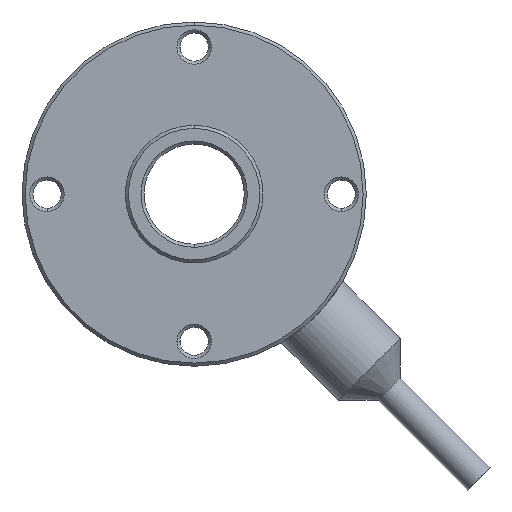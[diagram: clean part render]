
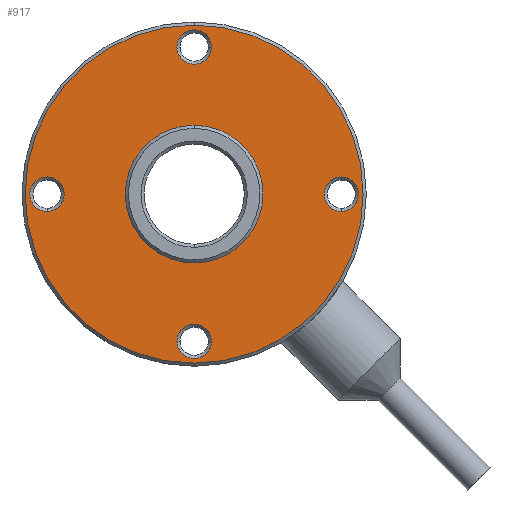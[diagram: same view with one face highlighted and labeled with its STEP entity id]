
A CAD part, left-side view. The second image highlights one B-rep face of the part: STEP entity #917.
In plain terms, the highlighted planar face has unit normal (-1, 0, 0).
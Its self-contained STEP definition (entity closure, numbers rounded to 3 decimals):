
#148=CARTESIAN_POINT('',(-10.,0.,0.));
#149=DIRECTION('',(1.,0.,0.));
#150=DIRECTION('',(0.,0.,-1.));
#151=AXIS2_PLACEMENT_3D('',#148,#149,#150);
#162=CARTESIAN_POINT('',(-10.,0.,0.));
#163=DIRECTION('',(-1.,0.,0.));
#164=DIRECTION('',(0.,0.,-1.));
#165=AXIS2_PLACEMENT_3D('',#162,#163,#164);
#171=CARTESIAN_POINT('',(-10.,0.,23.5));
#172=DIRECTION('',(1.,0.,0.));
#173=DIRECTION('',(0.,1.,0.));
#174=AXIS2_PLACEMENT_3D('',#171,#172,#173);
#176=CARTESIAN_POINT('',(-10.,0.,23.5));
#177=DIRECTION('',(1.,0.,0.));
#178=DIRECTION('',(0.,-1.,0.));
#179=AXIS2_PLACEMENT_3D('',#176,#177,#178);
#181=CARTESIAN_POINT('',(-10.,-23.5,0.));
#182=DIRECTION('',(1.,0.,0.));
#183=DIRECTION('',(0.,0.,1.));
#184=AXIS2_PLACEMENT_3D('',#181,#182,#183);
#186=CARTESIAN_POINT('',(-10.,-23.5,0.));
#187=DIRECTION('',(1.,0.,0.));
#188=DIRECTION('',(0.,0.,-1.));
#189=AXIS2_PLACEMENT_3D('',#186,#187,#188);
#191=CARTESIAN_POINT('',(-10.,23.5,0.));
#192=DIRECTION('',(1.,0.,0.));
#193=DIRECTION('',(0.,0.,-1.));
#194=AXIS2_PLACEMENT_3D('',#191,#192,#193);
#196=CARTESIAN_POINT('',(-10.,23.5,0.));
#197=DIRECTION('',(1.,0.,0.));
#198=DIRECTION('',(0.,0.,1.));
#199=AXIS2_PLACEMENT_3D('',#196,#197,#198);
#201=CARTESIAN_POINT('',(-10.,0.,-23.5));
#202=DIRECTION('',(1.,0.,0.));
#203=DIRECTION('',(0.,1.,0.));
#204=AXIS2_PLACEMENT_3D('',#201,#202,#203);
#206=CARTESIAN_POINT('',(-10.,0.,-23.5));
#207=DIRECTION('',(1.,0.,0.));
#208=DIRECTION('',(0.,-1.,0.));
#209=AXIS2_PLACEMENT_3D('',#206,#207,#208);
#211=CARTESIAN_POINT('',(-10.,0.,0.));
#212=DIRECTION('',(-1.,0.,0.));
#213=DIRECTION('',(0.,0.,1.));
#214=AXIS2_PLACEMENT_3D('',#211,#212,#213);
#216=CARTESIAN_POINT('',(-10.,0.,0.));
#217=DIRECTION('',(-1.,0.,0.));
#218=DIRECTION('',(0.,0.,-1.));
#219=AXIS2_PLACEMENT_3D('',#216,#217,#218);
#546=CARTESIAN_POINT('',(-10.,0.,-11.));
#547=CARTESIAN_POINT('',(-10.,0.,11.));
#548=VERTEX_POINT('',#546);
#549=VERTEX_POINT('',#547);
#586=CARTESIAN_POINT('',(-10.,2.75,23.5));
#587=CARTESIAN_POINT('',(-10.,-2.75,23.5));
#588=VERTEX_POINT('',#586);
#589=VERTEX_POINT('',#587);
#594=CARTESIAN_POINT('',(-10.,-23.5,2.75));
#595=CARTESIAN_POINT('',(-10.,-23.5,-2.75));
#596=VERTEX_POINT('',#594);
#597=VERTEX_POINT('',#595);
#602=CARTESIAN_POINT('',(-10.,23.5,-2.75));
#603=CARTESIAN_POINT('',(-10.,23.5,2.75));
#604=VERTEX_POINT('',#602);
#605=VERTEX_POINT('',#603);
#610=CARTESIAN_POINT('',(-10.,2.75,-23.5));
#611=CARTESIAN_POINT('',(-10.,-2.75,-23.5));
#612=VERTEX_POINT('',#610);
#613=VERTEX_POINT('',#611);
#642=CARTESIAN_POINT('',(-10.,0.,27.));
#643=CARTESIAN_POINT('',(-10.,0.,-27.));
#644=VERTEX_POINT('',#642);
#645=VERTEX_POINT('',#643);
#878=CARTESIAN_POINT('',(-10.,0.,0.));
#879=DIRECTION('',(1.,0.,0.));
#880=DIRECTION('',(0.,0.,1.));
#881=AXIS2_PLACEMENT_3D('',#878,#879,#880);
#882=PLANE('',#881);
#884=ORIENTED_EDGE('',*,*,#883,.F.);
#886=ORIENTED_EDGE('',*,*,#885,.F.);
#887=EDGE_LOOP('',(#884,#886));
#888=FACE_OUTER_BOUND('',#887,.F.);
#890=ORIENTED_EDGE('',*,*,#889,.F.);
#892=ORIENTED_EDGE('',*,*,#891,.F.);
#893=EDGE_LOOP('',(#890,#892));
#894=FACE_BOUND('',#893,.F.);
#896=ORIENTED_EDGE('',*,*,#895,.F.);
#898=ORIENTED_EDGE('',*,*,#897,.F.);
#899=EDGE_LOOP('',(#896,#898));
#900=FACE_BOUND('',#899,.F.);
#902=ORIENTED_EDGE('',*,*,#901,.F.);
#904=ORIENTED_EDGE('',*,*,#903,.F.);
#905=EDGE_LOOP('',(#902,#904));
#906=FACE_BOUND('',#905,.F.);
#908=ORIENTED_EDGE('',*,*,#907,.F.);
#910=ORIENTED_EDGE('',*,*,#909,.F.);
#911=EDGE_LOOP('',(#908,#910));
#912=FACE_BOUND('',#911,.F.);
#913=ORIENTED_EDGE('',*,*,#858,.F.);
#914=ORIENTED_EDGE('',*,*,#872,.T.);
#915=EDGE_LOOP('',(#913,#914));
#916=FACE_BOUND('',#915,.F.);
#917=ADVANCED_FACE('',(#888,#894,#900,#906,#912,#916),#882,.F.);
#152=CIRCLE('',#151,11.);
#166=CIRCLE('',#165,11.);
#175=CIRCLE('',#174,2.75);
#180=CIRCLE('',#179,2.75);
#185=CIRCLE('',#184,2.75);
#190=CIRCLE('',#189,2.75);
#195=CIRCLE('',#194,2.75);
#200=CIRCLE('',#199,2.75);
#205=CIRCLE('',#204,2.75);
#210=CIRCLE('',#209,2.75);
#215=CIRCLE('',#214,27.);
#220=CIRCLE('',#219,27.);
#858=EDGE_CURVE('',#548,#549,#152,.T.);
#872=EDGE_CURVE('',#548,#549,#166,.T.);
#883=EDGE_CURVE('',#644,#645,#215,.T.);
#885=EDGE_CURVE('',#645,#644,#220,.T.);
#889=EDGE_CURVE('',#588,#589,#175,.T.);
#891=EDGE_CURVE('',#589,#588,#180,.T.);
#895=EDGE_CURVE('',#596,#597,#185,.T.);
#897=EDGE_CURVE('',#597,#596,#190,.T.);
#901=EDGE_CURVE('',#604,#605,#195,.T.);
#903=EDGE_CURVE('',#605,#604,#200,.T.);
#907=EDGE_CURVE('',#612,#613,#205,.T.);
#909=EDGE_CURVE('',#613,#612,#210,.T.);
